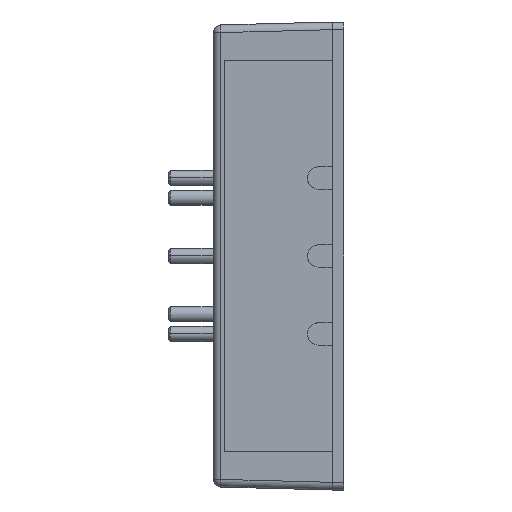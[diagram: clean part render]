
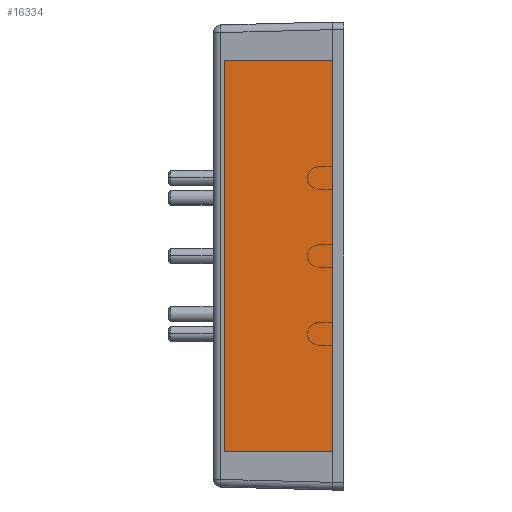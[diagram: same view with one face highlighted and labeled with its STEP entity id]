
A CAD part, left-side view. The second image highlights one B-rep face of the part: STEP entity #16334.
In plain terms, the highlighted planar face has unit normal (-1, 0.026, 0) as drawn and (1, 0, 0) by its records, which use the part's own axes.
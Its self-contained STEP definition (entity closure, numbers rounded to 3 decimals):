
#14891 = DIRECTION ( 'NONE',  ( 0., 1., 0. ) ) ;
#14892 = VECTOR ( 'NONE', #14891, 1000. ) ;
#14893 = CARTESIAN_POINT ( 'NONE',  ( 0.2, 14., -25.5 ) ) ;
#14894 = LINE ( 'NONE', #14893, #14892 ) ;
#14902 = DIRECTION ( 'NONE',  ( 0., 0., 1. ) ) ;
#14903 = VECTOR ( 'NONE', #14902, 1000. ) ;
#14904 = CARTESIAN_POINT ( 'NONE',  ( 0.2, 14., 25.5 ) ) ;
#14905 = LINE ( 'NONE', #14904, #14903 ) ;
#14912 = DIRECTION ( 'NONE',  ( 0., 0., -1. ) ) ;
#14913 = VECTOR ( 'NONE', #14912, 1000. ) ;
#14914 = CARTESIAN_POINT ( 'NONE',  ( 0.2, 0., 25.5 ) ) ;
#14915 = LINE ( 'NONE', #14914, #14913 ) ;
#14916 = CARTESIAN_POINT ( 'NONE',  ( 0.2, 0., -25.5 ) ) ;
#14957 = CARTESIAN_POINT ( 'NONE',  ( 0.2, 14., -25.5 ) ) ;
#15017 = CARTESIAN_POINT ( 'NONE',  ( 0.2, 14., 25.5 ) ) ;
#15018 = DIRECTION ( 'NONE',  ( 0., -1., 0. ) ) ;
#15019 = VECTOR ( 'NONE', #15018, 1000. ) ;
#15020 = CARTESIAN_POINT ( 'NONE',  ( 0.2, 14., 25.5 ) ) ;
#15021 = LINE ( 'NONE', #15020, #15019 ) ;
#15022 = CARTESIAN_POINT ( 'NONE',  ( 0.2, 0., 25.5 ) ) ;
#15103 = DIRECTION ( 'NONE',  ( 0., 0., -1. ) ) ;
#15104 = DIRECTION ( 'NONE',  ( 1., 0., 0. ) ) ;
#15105 = CARTESIAN_POINT ( 'NONE',  ( 0.2, 0., 25.5 ) ) ;
#15106 = AXIS2_PLACEMENT_3D ( 'NONE', #15105, #15104, #15103 ) ;
#15109 = PLANE ( 'NONE',  #15106 ) ;
#15125 = FACE_OUTER_BOUND ( 'NONE', #16335, .T. ) ;
#16137 = ORIENTED_EDGE ( 'NONE', *, *, #16257, .T. ) ;
#16159 = ORIENTED_EDGE ( 'NONE', *, *, #16369, .T. ) ;
#16184 = ORIENTED_EDGE ( 'NONE', *, *, #16271, .T. ) ;
#16255 = VERTEX_POINT ( 'NONE', #14916 ) ;
#16257 = EDGE_CURVE ( 'NONE', #16367, #16255, #14915, .T. ) ;
#16265 = EDGE_CURVE ( 'NONE', #16275, #16370, #14905, .T. ) ;
#16271 = EDGE_CURVE ( 'NONE', #16255, #16275, #14894, .T. ) ;
#16275 = VERTEX_POINT ( 'NONE', #14957 ) ;
#16334 = ADVANCED_FACE ( 'NONE', ( #15125 ), #15109, .T. ) ;
#16335 = EDGE_LOOP ( 'NONE', ( #16159, #16137, #16184, #16379 ) ) ;
#16367 = VERTEX_POINT ( 'NONE', #15022 ) ;
#16369 = EDGE_CURVE ( 'NONE', #16370, #16367, #15021, .T. ) ;
#16370 = VERTEX_POINT ( 'NONE', #15017 ) ;
#16379 = ORIENTED_EDGE ( 'NONE', *, *, #16265, .T. ) ;
